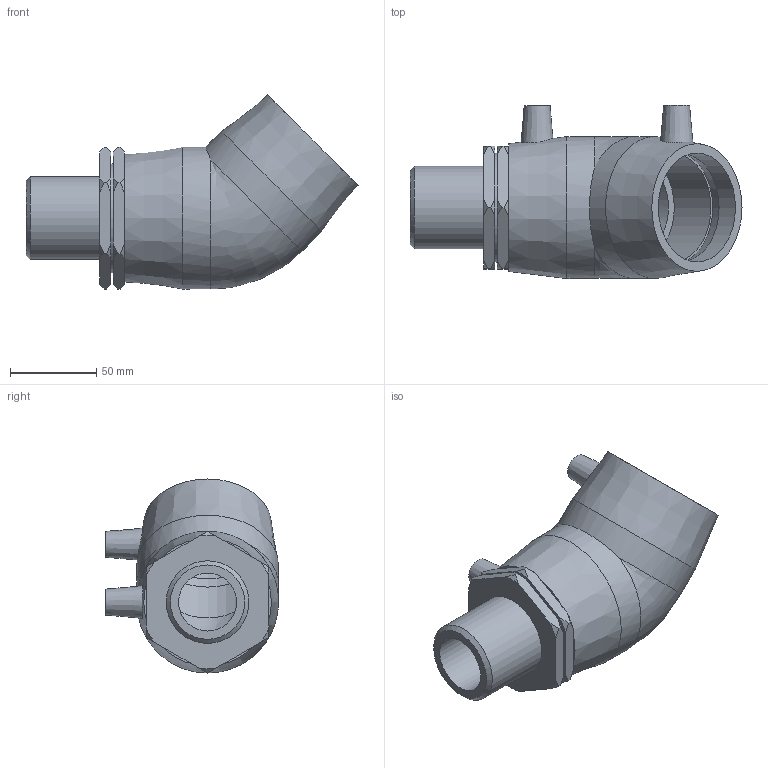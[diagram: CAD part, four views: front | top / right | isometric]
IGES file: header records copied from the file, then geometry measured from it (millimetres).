
Global section: file name: 497604063015.ipt; native system: Autodesk Inventor 2015; preprocessor: unknown; author: KIM; date: 20171106.094438; units: millimetre
Bounding box: 192 x 100 x 112.2 mm (x, y, z)
Volume: 413963.6 mm3; surface area: 87571.5 mm2
Topology: 1 solids, 2 shells, 77 faces, 196 edges, 133 vertices
Faces by surface type: plane 30, cone 29, revolution 8, cylinder 8, bspline 2
Full cylindrical faces by diameter (mm): 4 x2, 47.803 x1, 63 x3, 82 x2
